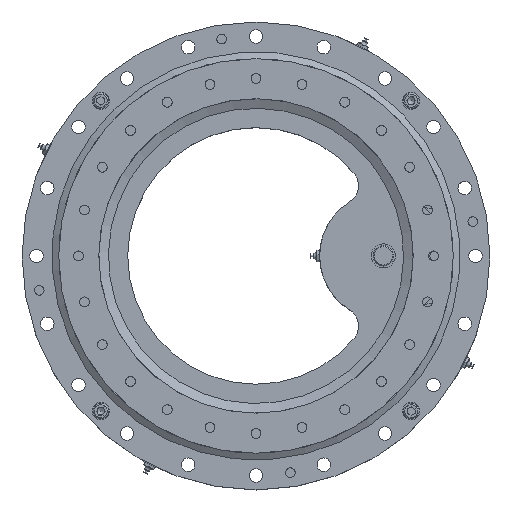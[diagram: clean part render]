
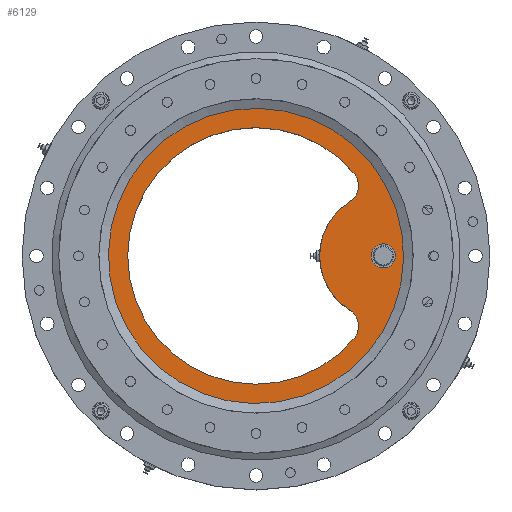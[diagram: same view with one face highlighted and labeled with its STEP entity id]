
A CAD part, top view. The second image highlights one B-rep face of the part: STEP entity #6129.
In plain terms, the highlighted planar face has unit normal (0, 0, 1).
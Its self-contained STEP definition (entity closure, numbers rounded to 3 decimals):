
#54=PLANE('',#6643);
#286=FACE_BOUND('',#860,.T.);
#287=FACE_BOUND('',#861,.T.);
#473=FACE_OUTER_BOUND('',#859,.T.);
#859=EDGE_LOOP('',(#4388));
#860=EDGE_LOOP('',(#4389));
#861=EDGE_LOOP('',(#4390,#4391,#4392,#4393));
#2252=CIRCLE('',#6521,133.);
#2256=CIRCLE('',#6526,66.);
#2332=CIRCLE('',#6637,20.);
#2335=CIRCLE('',#6642,20.);
#2336=CIRCLE('',#6644,155.);
#2337=CIRCLE('',#6645,10.5);
#2651=VERTEX_POINT('',#9163);
#2652=VERTEX_POINT('',#9164);
#2659=VERTEX_POINT('',#9179);
#2660=VERTEX_POINT('',#9181);
#2737=VERTEX_POINT('',#9594);
#2738=VERTEX_POINT('',#9596);
#3261=EDGE_CURVE('',#2651,#2652,#2252,.T.);
#3269=EDGE_CURVE('',#2659,#2660,#2256,.T.);
#3380=EDGE_CURVE('',#2651,#2660,#2332,.T.);
#3383=EDGE_CURVE('',#2659,#2652,#2335,.T.);
#3384=EDGE_CURVE('',#2737,#2737,#2336,.T.);
#3385=EDGE_CURVE('',#2738,#2738,#2337,.T.);
#4388=ORIENTED_EDGE('',*,*,#3384,.T.);
#4389=ORIENTED_EDGE('',*,*,#3385,.T.);
#4390=ORIENTED_EDGE('',*,*,#3261,.F.);
#4391=ORIENTED_EDGE('',*,*,#3380,.T.);
#4392=ORIENTED_EDGE('',*,*,#3269,.F.);
#4393=ORIENTED_EDGE('',*,*,#3383,.T.);
#6129=ADVANCED_FACE('',(#473,#286,#287),#54,.T.);
#6521=AXIS2_PLACEMENT_3D('',#9165,#7241,#7242);
#6526=AXIS2_PLACEMENT_3D('',#9182,#7255,#7256);
#6637=AXIS2_PLACEMENT_3D('',#9587,#7510,#7511);
#6642=AXIS2_PLACEMENT_3D('',#9592,#7520,#7521);
#6643=AXIS2_PLACEMENT_3D('',#9593,#7522,#7523);
#6644=AXIS2_PLACEMENT_3D('',#9595,#7524,#7525);
#6645=AXIS2_PLACEMENT_3D('',#9597,#7526,#7527);
#7241=DIRECTION('center_axis',(0.,0.,1.));
#7242=DIRECTION('ref_axis',(1.,0.,0.));
#7255=DIRECTION('center_axis',(0.,0.,-1.));
#7256=DIRECTION('ref_axis',(1.,0.,0.));
#7510=DIRECTION('center_axis',(0.,0.,-1.));
#7511=DIRECTION('ref_axis',(1.,0.,0.));
#7520=DIRECTION('center_axis',(0.,0.,-1.));
#7521=DIRECTION('ref_axis',(1.,0.,0.));
#7522=DIRECTION('center_axis',(0.,0.,1.));
#7523=DIRECTION('ref_axis',(1.,0.,0.));
#7524=DIRECTION('center_axis',(0.,0.,1.));
#7525=DIRECTION('ref_axis',(1.,0.,0.));
#7526=DIRECTION('center_axis',(0.,0.,-1.));
#7527=DIRECTION('ref_axis',(-1.,0.,0.));
#9163=CARTESIAN_POINT('',(127.069,87.463,457.578));
#9164=CARTESIAN_POINT('',(127.069,-84.108,457.578));
#9165=CARTESIAN_POINT('Origin',(25.433,1.677,457.578));
#9179=CARTESIAN_POINT('',(122.401,-54.258,457.578));
#9181=CARTESIAN_POINT('',(122.401,57.612,457.578));
#9182=CARTESIAN_POINT('Origin',(157.433,1.677,457.578));
#9587=CARTESIAN_POINT('Origin',(111.785,74.562,457.578));
#9592=CARTESIAN_POINT('Origin',(111.785,-71.208,457.578));
#9593=CARTESIAN_POINT('Origin',(25.433,1.677,457.578));
#9594=CARTESIAN_POINT('',(-129.567,1.677,457.578));
#9595=CARTESIAN_POINT('Origin',(25.433,1.677,457.578));
#9596=CARTESIAN_POINT('',(167.933,1.677,457.578));
#9597=CARTESIAN_POINT('Origin',(157.433,1.677,457.578));
